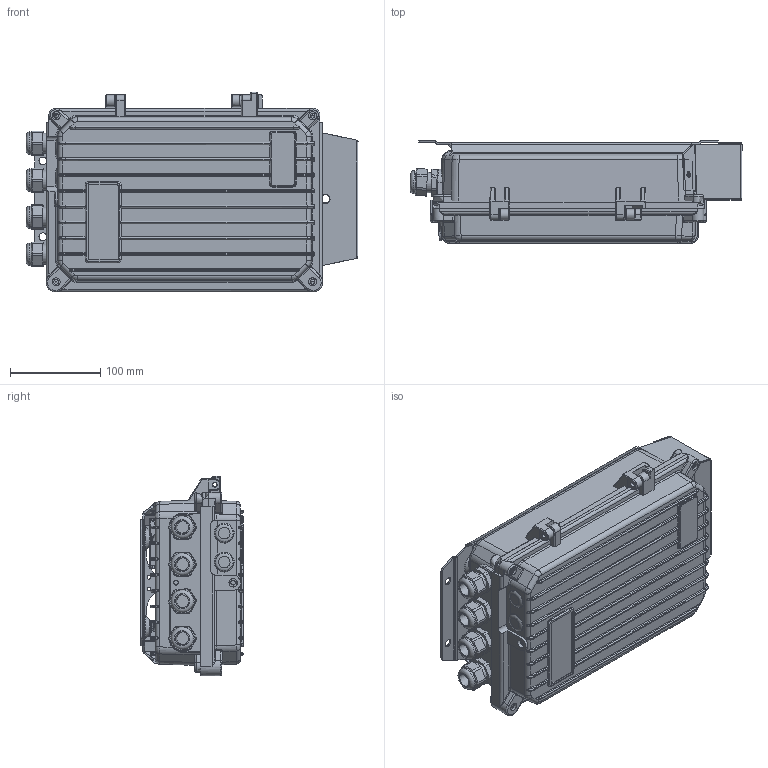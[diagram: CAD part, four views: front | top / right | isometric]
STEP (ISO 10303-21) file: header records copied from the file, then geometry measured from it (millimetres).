
FILE_DESCRIPTION(/* description */ ('Alibre Inc.'),/* implementation_level */ '2;1');
FILE_NAME(/* name */ 'export0',/* time_stamp */ '2014-05-13T08:16:16+02:00',/* author */ (''),/* organization */ (''),/* preprocessor_version */ 'ST-DEVELOPER v14',/* originating_system */ 'Alibre',/* authorisation */ '');
FILE_SCHEMA (('AUTOMOTIVE_DESIGN'));
Length unit declared in the file: millimetre
Bounding box: 367.74 x 113.41 x 221 mm (x, y, z)
Volume: 454372.9 mm3; surface area: 662484.1 mm2
Topology: 15 solids, 25 shells, 1793 faces, 4517 edges, 2803 vertices
Faces by surface type: plane 734, cylinder 659, bspline 226, torus 101, cone 67, sphere 6
Full cylindrical faces by diameter (mm): 2.459 x6, 3.3 x4, 4 x2, 4.2 x8, 4.5 x2, 5 x4, 5.2 x2, 5.3 x4, 6.3 x1, 6.5 x4, 8.5 x2, 9 x9, 9.4 x1, 10 x1, 10.5 x1, 14.4 x4, 19.5 x2, 20.6 x4, 20.676 x2, 22.4 x8, 25 x4, 56 x2
Entity records: 51886 total; most frequent: CARTESIAN_POINT 14454, ORIENTED_EDGE 7838, DIRECTION 7242, EDGE_CURVE 3919, AXIS2_PLACEMENT_3D 3003, VERTEX_POINT 2520, VECTOR 1948, LINE 1948
